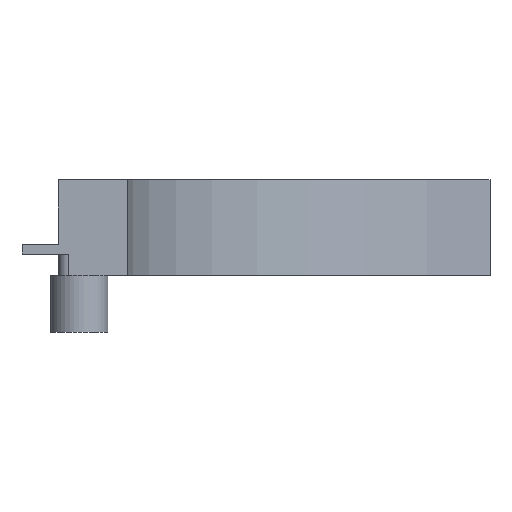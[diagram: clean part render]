
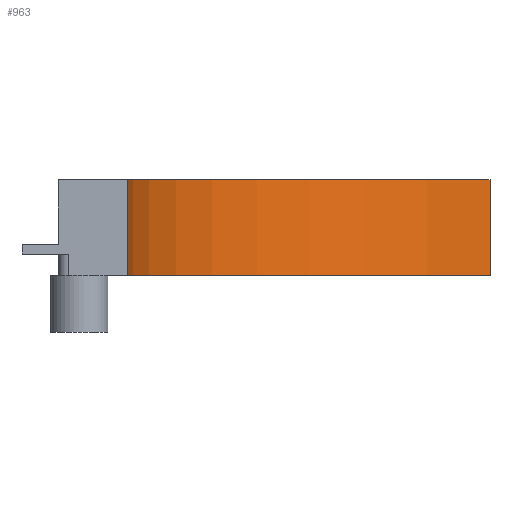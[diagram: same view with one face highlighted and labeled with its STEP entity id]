
A CAD part, front view. The second image highlights one B-rep face of the part: STEP entity #963.
In plain terms, the highlighted cylindrical face has radius 19 mm (diameter 38 mm), a partial arc.
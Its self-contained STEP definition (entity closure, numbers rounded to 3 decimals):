
#55=CARTESIAN_POINT('',(0.,0.,0.));
#56=DIRECTION('',(0.,0.,-1.));
#57=DIRECTION('',(-1.,0.,0.));
#58=AXIS2_PLACEMENT_3D('',#55,#56,#57);
#158=CARTESIAN_POINT('',(0.,0.,5.));
#159=DIRECTION('',(0.,0.,-1.));
#160=DIRECTION('',(-1.,0.,0.));
#161=AXIS2_PLACEMENT_3D('',#158,#159,#160);
#316=DIRECTION('',(0.,0.,1.));
#317=VECTOR('',#316,5.);
#318=CARTESIAN_POINT('',(-19.,0.,0.));
#319=LINE('',#318,#317);
#324=DIRECTION('',(0.,0.,1.));
#325=VECTOR('',#324,5.);
#326=CARTESIAN_POINT('',(0.,19.,0.));
#327=LINE('',#326,#325);
#406=CARTESIAN_POINT('',(-19.,0.,0.));
#407=CARTESIAN_POINT('',(0.,19.,0.));
#408=VERTEX_POINT('',#406);
#409=VERTEX_POINT('',#407);
#410=CARTESIAN_POINT('',(0.,19.,5.));
#412=VERTEX_POINT('',#410);
#416=CARTESIAN_POINT('',(-19.,0.,5.));
#417=VERTEX_POINT('',#416);
#951=CARTESIAN_POINT('',(0.,0.,0.));
#952=DIRECTION('',(0.,0.,1.));
#953=DIRECTION('',(1.,0.,0.));
#954=AXIS2_PLACEMENT_3D('',#951,#952,#953);
#955=CYLINDRICAL_SURFACE('',#954,19.);
#956=ORIENTED_EDGE('',*,*,#537,.F.);
#957=ORIENTED_EDGE('',*,*,#909,.T.);
#958=ORIENTED_EDGE('',*,*,#634,.T.);
#960=ORIENTED_EDGE('',*,*,#959,.F.);
#961=EDGE_LOOP('',(#956,#957,#958,#960));
#962=FACE_OUTER_BOUND('',#961,.F.);
#963=ADVANCED_FACE('',(#962),#955,.F.);
#59=CIRCLE('',#58,19.);
#162=CIRCLE('',#161,19.);
#537=EDGE_CURVE('',#408,#409,#59,.T.);
#634=EDGE_CURVE('',#417,#412,#162,.T.);
#909=EDGE_CURVE('',#408,#417,#319,.T.);
#959=EDGE_CURVE('',#409,#412,#327,.T.);
